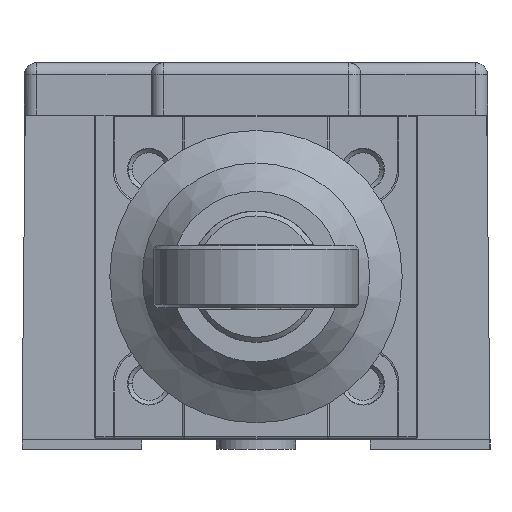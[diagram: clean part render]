
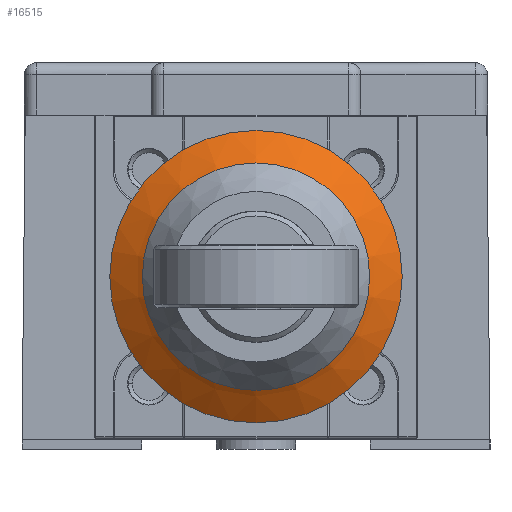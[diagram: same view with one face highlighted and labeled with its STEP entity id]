
A CAD part, left-side view. The second image highlights one B-rep face of the part: STEP entity #16515.
In plain terms, the highlighted conical face has half-angle 55.305 degrees and reference radius 9 mm.
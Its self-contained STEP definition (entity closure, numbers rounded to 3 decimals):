
#16495 = EDGE_CURVE('',#16496,#16496,#16498,.T.);
#16496 = VERTEX_POINT('',#16497);
#16497 = CARTESIAN_POINT('',(52.223,-4.628,222.715));
#16498 = CIRCLE('',#16499,9.);
#16499 = AXIS2_PLACEMENT_3D('',#16500,#16501,#16502);
#16500 = CARTESIAN_POINT('',(52.223,-4.628,231.715));
#16501 = DIRECTION('',(1.,0.,0.));
#16502 = DIRECTION('',(0.,0.,-1.));
#16515 = ADVANCED_FACE('',(#16516),#16534,.T.);
#16516 = FACE_BOUND('',#16517,.T.);
#16517 = EDGE_LOOP('',(#16518,#16527,#16532,#16533));
#16518 = ORIENTED_EDGE('',*,*,#16519,.T.);
#16519 = EDGE_CURVE('',#16520,#16520,#16522,.T.);
#16520 = VERTEX_POINT('',#16521);
#16521 = CARTESIAN_POINT('',(49.973,-4.628,225.965));
#16522 = CIRCLE('',#16523,5.75);
#16523 = AXIS2_PLACEMENT_3D('',#16524,#16525,#16526);
#16524 = CARTESIAN_POINT('',(49.973,-4.628,231.715));
#16525 = DIRECTION('',(1.,0.,0.));
#16526 = DIRECTION('',(0.,0.,-1.));
#16527 = ORIENTED_EDGE('',*,*,#16528,.T.);
#16528 = EDGE_CURVE('',#16520,#16496,#16529,.T.);
#16529 = B_SPLINE_CURVE_WITH_KNOTS('',1,(#16530,#16531),.UNSPECIFIED.,
  .F.,.F.,(2,2),(-3.953,0.),.PIECEWISE_BEZIER_KNOTS.);
#16530 = CARTESIAN_POINT('',(49.973,-4.628,225.965));
#16531 = CARTESIAN_POINT('',(52.223,-4.628,222.715));
#16532 = ORIENTED_EDGE('',*,*,#16495,.F.);
#16533 = ORIENTED_EDGE('',*,*,#16528,.F.);
#16534 = CONICAL_SURFACE('',#16535,9.,0.965);
#16535 = AXIS2_PLACEMENT_3D('',#16536,#16537,#16538);
#16536 = CARTESIAN_POINT('',(52.223,-4.628,231.715));
#16537 = DIRECTION('',(1.,0.,0.));
#16538 = DIRECTION('',(0.,0.,-1.));
